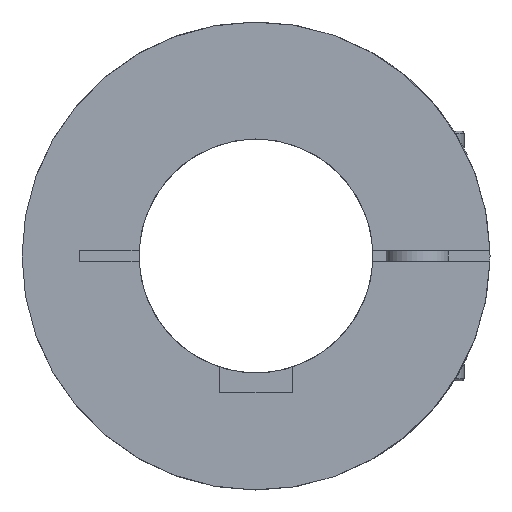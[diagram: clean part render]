
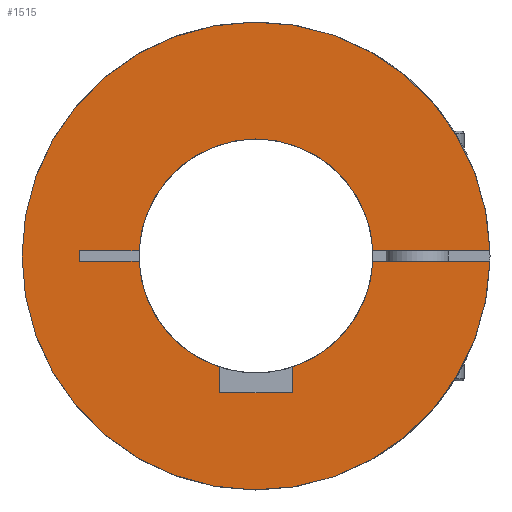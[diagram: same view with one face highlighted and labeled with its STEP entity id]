
A CAD part, left-side view. The second image highlights one B-rep face of the part: STEP entity #1515.
In plain terms, the highlighted planar face has unit normal (-1, 0, 0).
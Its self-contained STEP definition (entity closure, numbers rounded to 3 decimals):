
#32=PLANE('',#1728);
#138=LINE('',#2704,#245);
#141=LINE('',#2710,#248);
#142=LINE('',#2712,#249);
#154=LINE('',#2734,#261);
#158=LINE('',#2740,#265);
#169=LINE('',#2761,#276);
#170=LINE('',#2764,#277);
#175=LINE('',#2772,#282);
#245=VECTOR('',#2074,1.);
#248=VECTOR('',#2079,1.);
#249=VECTOR('',#2082,1.);
#261=VECTOR('',#2102,23.046);
#265=VECTOR('',#2110,34.034);
#276=VECTOR('',#2131,34.034);
#277=VECTOR('',#2134,23.046);
#282=VECTOR('',#2145,2.);
#383=FACE_OUTER_BOUND('',#479,.T.);
#479=EDGE_LOOP('',(#1268,#1269,#1270,#1271,#1272,#1273,#1274,#1275,#1276,
#1277,#1278,#1279));
#630=CIRCLE('',#1692,45.);
#640=CIRCLE('',#1705,22.5);
#642=CIRCLE('',#1707,22.5);
#643=CIRCLE('',#1709,22.5);
#730=VERTEX_POINT('',#2636);
#731=VERTEX_POINT('',#2638);
#749=VERTEX_POINT('',#2677);
#750=VERTEX_POINT('',#2679);
#753=VERTEX_POINT('',#2685);
#754=VERTEX_POINT('',#2687);
#755=VERTEX_POINT('',#2691);
#756=VERTEX_POINT('',#2692);
#760=VERTEX_POINT('',#2702);
#762=VERTEX_POINT('',#2708);
#768=VERTEX_POINT('',#2732);
#774=VERTEX_POINT('',#2763);
#910=EDGE_CURVE('',#731,#730,#630,.T.);
#929=EDGE_CURVE('',#750,#749,#640,.T.);
#933=EDGE_CURVE('',#754,#753,#642,.T.);
#935=EDGE_CURVE('',#755,#756,#643,.T.);
#941=EDGE_CURVE('',#753,#760,#138,.T.);
#944=EDGE_CURVE('',#760,#762,#141,.T.);
#945=EDGE_CURVE('',#762,#750,#142,.T.);
#957=EDGE_CURVE('',#768,#749,#154,.T.);
#961=EDGE_CURVE('',#756,#731,#158,.T.);
#972=EDGE_CURVE('',#730,#754,#169,.T.);
#973=EDGE_CURVE('',#774,#755,#170,.T.);
#978=EDGE_CURVE('',#774,#768,#175,.T.);
#1268=ORIENTED_EDGE('',*,*,#929,.T.);
#1269=ORIENTED_EDGE('',*,*,#957,.F.);
#1270=ORIENTED_EDGE('',*,*,#978,.F.);
#1271=ORIENTED_EDGE('',*,*,#973,.T.);
#1272=ORIENTED_EDGE('',*,*,#935,.T.);
#1273=ORIENTED_EDGE('',*,*,#961,.T.);
#1274=ORIENTED_EDGE('',*,*,#910,.T.);
#1275=ORIENTED_EDGE('',*,*,#972,.T.);
#1276=ORIENTED_EDGE('',*,*,#933,.T.);
#1277=ORIENTED_EDGE('',*,*,#941,.T.);
#1278=ORIENTED_EDGE('',*,*,#944,.T.);
#1279=ORIENTED_EDGE('',*,*,#945,.T.);
#1515=ADVANCED_FACE('',(#383),#32,.T.);
#1692=AXIS2_PLACEMENT_3D('',#2639,#2018,#2019);
#1705=AXIS2_PLACEMENT_3D('',#2680,#2053,#2054);
#1707=AXIS2_PLACEMENT_3D('',#2688,#2059,#2060);
#1709=AXIS2_PLACEMENT_3D('',#2693,#2064,#2065);
#1728=AXIS2_PLACEMENT_3D('',#2771,#2143,#2144);
#2018=DIRECTION('center_axis',(-1.,0.,0.));
#2019=DIRECTION('ref_axis',(0.,1.,0.));
#2053=DIRECTION('center_axis',(1.,0.,0.));
#2054=DIRECTION('ref_axis',(0.,0.,-1.));
#2059=DIRECTION('center_axis',(1.,0.,0.));
#2060=DIRECTION('ref_axis',(0.,0.,-1.));
#2064=DIRECTION('center_axis',(1.,0.,0.));
#2065=DIRECTION('ref_axis',(0.,0.,-1.));
#2074=DIRECTION('',(0.,0.,-1.));
#2079=DIRECTION('',(0.,1.,0.));
#2082=DIRECTION('',(0.,0.,1.));
#2102=DIRECTION('',(0.,-1.,0.));
#2110=DIRECTION('',(0.,-1.,0.));
#2131=DIRECTION('',(0.,1.,0.));
#2134=DIRECTION('',(0.,-1.,0.));
#2143=DIRECTION('center_axis',(-1.,0.,0.));
#2144=DIRECTION('ref_axis',(0.,-1.,0.));
#2145=DIRECTION('',(0.,0.,-1.));
#2636=CARTESIAN_POINT('',(0.,-44.989,-1.));
#2638=CARTESIAN_POINT('',(0.,-44.989,1.));
#2639=CARTESIAN_POINT('Origin',(0.,0.,0.));
#2677=CARTESIAN_POINT('',(0.,22.478,-1.));
#2679=CARTESIAN_POINT('',(0.,7.,-21.383));
#2680=CARTESIAN_POINT('Origin',(0.,0.,0.));
#2685=CARTESIAN_POINT('',(0.,-7.,-21.383));
#2687=CARTESIAN_POINT('',(0.,-22.478,-1.));
#2688=CARTESIAN_POINT('Origin',(0.,0.,0.));
#2691=CARTESIAN_POINT('',(0.,22.478,1.));
#2692=CARTESIAN_POINT('',(0.,-22.478,1.));
#2693=CARTESIAN_POINT('Origin',(0.,0.,0.));
#2702=CARTESIAN_POINT('',(0.,-7.,-26.3));
#2704=CARTESIAN_POINT('',(0.,-7.,-12.075));
#2708=CARTESIAN_POINT('',(0.,7.,-26.3));
#2710=CARTESIAN_POINT('',(0.,0.,-26.3));
#2712=CARTESIAN_POINT('',(0.,7.,-12.075));
#2732=CARTESIAN_POINT('',(0.,34.,-1.));
#2734=CARTESIAN_POINT('',(0.,34.,-1.));
#2740=CARTESIAN_POINT('',(0.,-10.954,1.));
#2761=CARTESIAN_POINT('',(0.,-44.989,-1.));
#2763=CARTESIAN_POINT('',(0.,34.,1.));
#2764=CARTESIAN_POINT('',(0.,34.,1.));
#2771=CARTESIAN_POINT('Origin',(0.,0.,-11.));
#2772=CARTESIAN_POINT('',(0.,34.,1.));
